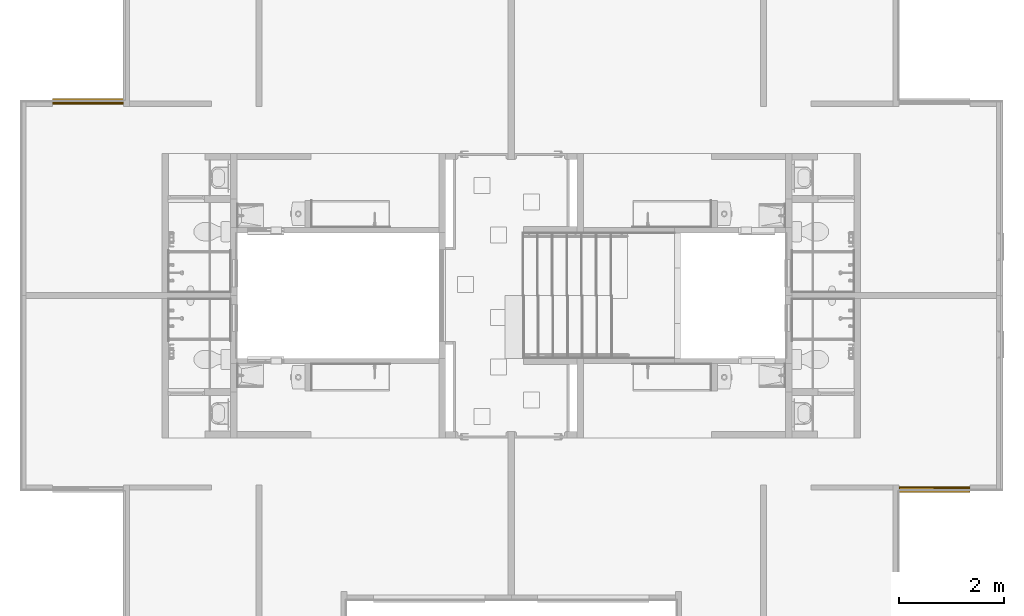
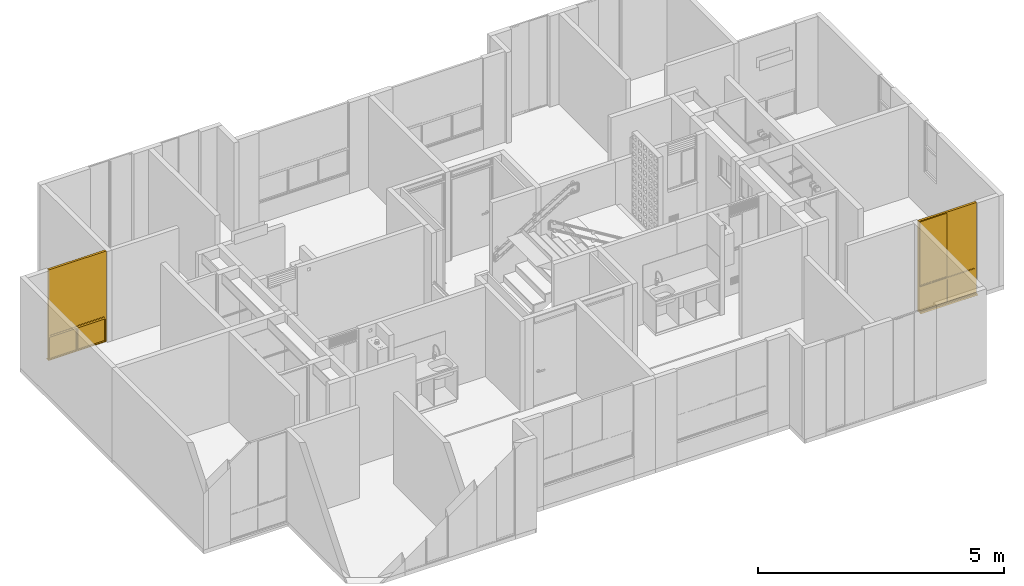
# One storey, part 35 of 48: 2 windows.
"""IFC4 building model written with IfcOpenShell, lengths in metres."""

from ifc_helpers import new_model, entity, si_unit, converted_unit, derived_unit, direction, frame, origin, place, context, subcontext, project, spatial, polygons, source, transform, mapped, material, constituent, constituent_set, type_object, type_shapes, element, save


model = new_model("IFC4")

# Units and contexts
model_context = context("Model", 3, precision=1e-05, world=origin(), true_north=direction((6.123031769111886e-17, 1.0)))
body_context = subcontext(model_context, "Body", "Model", "MODEL_VIEW")
ifc_project = project(units=[si_unit("LENGTHUNIT", "METRE"), si_unit("AREAUNIT", "SQUARE_METRE"), si_unit("VOLUMEUNIT", "CUBIC_METRE"), converted_unit("PLANEANGLEUNIT", "DEGREE", entity("IfcRatioMeasure", 0.017453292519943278), si_unit("PLANEANGLEUNIT", "RADIAN"), dimensions=[0, 0, 0, 0, 0, 0, 0]), si_unit("MASSUNIT", "GRAM", prefix="KILO"), derived_unit("MASSDENSITYUNIT", [(si_unit("MASSUNIT", "GRAM", prefix="KILO"), 1), (si_unit("LENGTHUNIT", "METRE"), -3)]), derived_unit("IONCONCENTRATIONUNIT", [(si_unit("MASSUNIT", "GRAM", prefix="KILO"), 1), (si_unit("LENGTHUNIT", "METRE"), -3)]), derived_unit("MOMENTOFINERTIAUNIT", [(si_unit("LENGTHUNIT", "METRE"), 4)]), si_unit("TIMEUNIT", "SECOND"), si_unit("FREQUENCYUNIT", "HERTZ"), si_unit("THERMODYNAMICTEMPERATUREUNIT", "DEGREE_CELSIUS"), derived_unit("THERMALTRANSMITTANCEUNIT", [(si_unit("MASSUNIT", "GRAM", prefix="KILO"), 1), (si_unit("THERMODYNAMICTEMPERATUREUNIT", "KELVIN"), -1), (si_unit("TIMEUNIT", "SECOND"), -3)]), derived_unit("THERMALCONDUCTANCEUNIT", [(si_unit("MASSUNIT", "GRAM", prefix="KILO"), 1), (si_unit("THERMODYNAMICTEMPERATUREUNIT", "KELVIN"), -1), (si_unit("TIMEUNIT", "SECOND"), -3), (si_unit("LENGTHUNIT", "METRE"), 1)]), derived_unit("VOLUMETRICFLOWRATEUNIT", [(si_unit("LENGTHUNIT", "METRE"), 3), (si_unit("TIMEUNIT", "SECOND"), -1)]), derived_unit("MASSFLOWRATEUNIT", [(si_unit("MASSUNIT", "GRAM", prefix="KILO"), 1), (si_unit("TIMEUNIT", "SECOND"), -1)]), derived_unit("ROTATIONALFREQUENCYUNIT", [(si_unit("TIMEUNIT", "SECOND"), -1)]), si_unit("ELECTRICCURRENTUNIT", "AMPERE"), si_unit("ELECTRICVOLTAGEUNIT", "VOLT"), si_unit("POWERUNIT", "WATT"), si_unit("FORCEUNIT", "NEWTON", prefix="KILO"), si_unit("ILLUMINANCEUNIT", "LUX"), si_unit("LUMINOUSFLUXUNIT", "LUMEN"), si_unit("LUMINOUSINTENSITYUNIT", "CANDELA"), derived_unit("USERDEFINED", [(si_unit("MASSUNIT", "GRAM", prefix="KILO"), -1), (si_unit("LENGTHUNIT", "METRE"), -2), (si_unit("TIMEUNIT", "SECOND"), 3), (si_unit("LUMINOUSFLUXUNIT", "LUMEN"), 1)]), derived_unit("USERDEFINED", [(si_unit("MASSUNIT", "GRAM", prefix="KILO"), 1), (si_unit("TIMEUNIT", "SECOND"), -3), (si_unit("LENGTHUNIT", "METRE"), 3), (si_unit("ELECTRICCURRENTUNIT", "AMPERE"), -2)]), derived_unit("SOUNDPOWERUNIT", [(si_unit("MASSUNIT", "GRAM", prefix="KILO"), 1), (si_unit("TIMEUNIT", "SECOND"), -3), (si_unit("LENGTHUNIT", "METRE"), 2)]), derived_unit("SOUNDPRESSUREUNIT", [(si_unit("MASSUNIT", "GRAM", prefix="KILO"), 1), (si_unit("LENGTHUNIT", "METRE"), -1), (si_unit("TIMEUNIT", "SECOND"), -2)]), derived_unit("LINEARVELOCITYUNIT", [(si_unit("LENGTHUNIT", "METRE"), 1), (si_unit("TIMEUNIT", "SECOND"), -1)]), si_unit("PRESSUREUNIT", "PASCAL"), derived_unit("USERDEFINED", [(si_unit("MASSUNIT", "GRAM", prefix="KILO"), 1), (si_unit("LENGTHUNIT", "METRE"), -2), (si_unit("TIMEUNIT", "SECOND"), -2)]), derived_unit("LINEARFORCEUNIT", [(si_unit("MASSUNIT", "GRAM", prefix="KILO"), 1), (si_unit("TIMEUNIT", "SECOND"), -2)]), derived_unit("PLANARFORCEUNIT", [(si_unit("MASSUNIT", "GRAM", prefix="KILO"), 1), (si_unit("LENGTHUNIT", "METRE"), -1), (si_unit("TIMEUNIT", "SECOND"), -2)]), derived_unit("SPECIFICHEATCAPACITYUNIT", [(si_unit("THERMODYNAMICTEMPERATUREUNIT", "KELVIN"), -1), (si_unit("LENGTHUNIT", "METRE"), 2), (si_unit("TIMEUNIT", "SECOND"), -2)]), derived_unit("HEATINGVALUEUNIT", [(si_unit("LENGTHUNIT", "METRE"), 2), (si_unit("TIMEUNIT", "SECOND"), -2)]), derived_unit("VAPORPERMEABILITYUNIT", [(si_unit("LENGTHUNIT", "METRE"), -1), (si_unit("TIMEUNIT", "SECOND"), 1)]), derived_unit("DYNAMICVISCOSITYUNIT", [(si_unit("MASSUNIT", "GRAM", prefix="KILO"), 1), (si_unit("TIMEUNIT", "SECOND"), -1), (si_unit("LENGTHUNIT", "METRE"), -1)]), derived_unit("THERMALEXPANSIONCOEFFICIENTUNIT", [(si_unit("THERMODYNAMICTEMPERATUREUNIT", "KELVIN"), -1)]), derived_unit("MODULUSOFELASTICITYUNIT", [(si_unit("MASSUNIT", "GRAM", prefix="KILO"), 1), (si_unit("LENGTHUNIT", "METRE"), -1), (si_unit("TIMEUNIT", "SECOND"), -2)]), derived_unit("ISOTHERMALMOISTURECAPACITYUNIT", [(si_unit("LENGTHUNIT", "METRE"), 3), (si_unit("MASSUNIT", "GRAM", prefix="KILO"), -1)]), derived_unit("MOISTUREDIFFUSIVITYUNIT", [(si_unit("TIMEUNIT", "SECOND"), -1), (si_unit("LENGTHUNIT", "METRE"), 2)])], contexts=[model_context])

# Site, building, storey
site_placement = place(None, origin())
site = spatial("IfcSite", under=ifc_project, at=site_placement, Name="Default", CompositionType="ELEMENT")
building_placement = place(site_placement, origin())
building = spatial("IfcBuilding", under=site, at=building_placement, CompositionType="ELEMENT")
storey_placement = place(building_placement, frame((0.0, 0.0, 9.40000000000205)))
storey = spatial("IfcBuildingStorey", under=building, at=storey_placement, Name="Nivel 5", CompositionType="ELEMENT", Elevation=9.40000000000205)

# Windows
ifc_material_1 = material(Name="Vidrio", Category="Materials")
ifc_constituent_1 = constituent(ifc_material_1, Name="Vidrio", Category="Materials")
ifc_material_2 = material(Name="Aluminio", Category="Materials")
ifc_constituent_2 = constituent(ifc_material_2, Name="Aluminio", Category="Materials")
ifc_material_3 = material(Name="<Unnamed>")
ifc_constituent_3 = constituent(ifc_material_3, Name="<Unnamed>")
ifc_constituent_set_1 = constituent_set(constituents=[ifc_constituent_1, ifc_constituent_2, ifc_constituent_3])
ifc_constituent_4 = constituent(ifc_material_1, Name="Vidrio", Category="Materials")
ifc_constituent_5 = constituent(ifc_material_2, Name="Aluminio", Category="Materials")
ifc_constituent_6 = constituent(ifc_material_3, Name="<Unnamed>")
ifc_constituent_set_2 = constituent_set(constituents=[ifc_constituent_4, ifc_constituent_5, ifc_constituent_6])
window_type = type_object("IfcWindowType", Name="B2020 - Ventana corrediza - Aluminio + Vidrio:B2020 - 1.35m x 2.25m - Ventana corrediza 2C - Aluminio + Vidrio", PartitioningType="NOTDEFINED", PredefinedType="WINDOW", material=ifc_constituent_set_2)
shared_shape = source(origin(), body_context, "Body", "Tessellation", [
    polygons([(0.020000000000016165, 0.044249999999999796, 2.2300000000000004), (0.020000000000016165, 0.044249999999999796, 0.6174999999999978), (0.6750000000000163, 0.04424999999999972, 0.6174999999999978), (0.6750000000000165, 0.04424999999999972, 2.2300000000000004), (0.6750000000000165, 0.04824999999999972, 2.2300000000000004), (0.020000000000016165, 0.04824999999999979, 2.2300000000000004), (0.6750000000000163, 0.04824999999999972, 0.6174999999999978), (0.020000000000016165, 0.04824999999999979, 0.6174999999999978)], [[[1, 2, 3, 4]], [[4, 5, 6, 1]], [[3, 7, 5, 4]], [[1, 6, 8, 2]], [[6, 5, 7, 8]], [[2, 8, 7, 3]]], closed=True),
    polygons([(1.3300000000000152, 0.04424999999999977, 2.2300000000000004), (0.6700000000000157, 0.044249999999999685, 2.2300000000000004), (0.6700000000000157, 0.044249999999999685, 0.6174999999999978), (1.3300000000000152, 0.04424999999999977, 0.6174999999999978), (1.3300000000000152, 0.048249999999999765, 0.6174999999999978), (1.3300000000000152, 0.048249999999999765, 2.2300000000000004), (0.6700000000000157, 0.04824999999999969, 2.2300000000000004), (0.6700000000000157, 0.04824999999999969, 0.6174999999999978)], [[[1, 2, 3, 4]], [[4, 5, 6, 1]], [[2, 7, 8, 3]], [[1, 6, 7, 2]], [[6, 5, 8, 7]], [[3, 8, 5, 4]]], closed=True),
    polygons([(0.6700000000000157, 0.048249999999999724, 0.6174999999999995), (0.6700000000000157, 0.048249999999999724, 2.230000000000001), (0.6700000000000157, 0.044249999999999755, 2.230000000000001), (0.6700000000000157, 0.044249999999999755, 0.6174999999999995), (1.3300000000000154, 0.04424999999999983, 2.230000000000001), (1.3300000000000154, 0.04424999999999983, 0.6174999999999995), (0.685000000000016, 0.044249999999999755, 2.2150000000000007), (0.685000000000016, 0.044249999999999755, 0.6324999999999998), (1.315000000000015, 0.04424999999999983, 0.6324999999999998), (1.315000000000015, 0.04424999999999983, 2.2150000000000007), (1.3300000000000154, 0.0482499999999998, 2.230000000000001), (1.3300000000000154, 0.0482499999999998, 0.6174999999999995), (0.685000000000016, 0.048249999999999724, 0.6324999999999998), (0.685000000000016, 0.048249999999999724, 2.2150000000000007), (1.315000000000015, 0.04824999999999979, 2.2150000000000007), (1.315000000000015, 0.04824999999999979, 0.6324999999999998), (0.685000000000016, 0.05299999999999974, 0.6324999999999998), (0.685000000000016, 0.05299999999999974, 2.2150000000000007), (1.315000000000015, 0.05299999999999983, 2.2150000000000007), (1.315000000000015, 0.05299999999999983, 0.6324999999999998), (0.6650000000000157, 0.05299999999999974, 0.6124999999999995), (0.6650000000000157, 0.05299999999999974, 2.2350000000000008), (1.3350000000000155, 0.05299999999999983, 2.2350000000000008), (1.3350000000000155, 0.05299999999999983, 0.6124999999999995), (0.6650000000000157, 0.03949999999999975, 0.6124999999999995), (0.6650000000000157, 0.03949999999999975, 2.2350000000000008), (1.3350000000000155, 0.03949999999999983, 2.2350000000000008), (1.3350000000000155, 0.03949999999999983, 0.6124999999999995), (0.685000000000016, 0.03949999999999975, 0.6324999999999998), (0.685000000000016, 0.03949999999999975, 2.2150000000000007), (1.315000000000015, 0.03949999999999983, 2.2150000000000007), (1.315000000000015, 0.03949999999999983, 0.6324999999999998)], [[[1, 2, 3, 4]], [[4, 3, 5, 6], [7, 8, 9, 10]], [[2, 11, 5, 3]], [[2, 1, 12, 11], [13, 14, 15, 16]], [[17, 18, 14, 13]], [[18, 19, 15, 14]], [[21, 22, 23, 24], [18, 17, 20, 19]], [[25, 26, 22, 21]], [[26, 27, 23, 22]], [[26, 25, 28, 27], [29, 30, 31, 32]], [[8, 7, 30, 29]], [[7, 10, 31, 30]], [[11, 12, 6, 5]], [[19, 20, 16, 15]], [[27, 28, 24, 23]], [[10, 9, 32, 31]], [[12, 1, 4, 6]], [[20, 17, 13, 16]], [[28, 25, 21, 24]], [[9, 8, 29, 32]]], closed=True),
    polygons([(0.6800000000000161, 0.06674999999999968, 2.229999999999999), (0.02000000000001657, 0.06674999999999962, 2.229999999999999), (0.02000000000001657, 0.06674999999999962, 0.6174999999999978), (0.6800000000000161, 0.06674999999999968, 0.6174999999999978), (0.6800000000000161, 0.07074999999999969, 0.6174999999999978), (0.6800000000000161, 0.07074999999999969, 2.229999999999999), (0.02000000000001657, 0.0707499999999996, 2.229999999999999), (0.02000000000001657, 0.0707499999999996, 0.6174999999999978)], [[[1, 2, 3, 4]], [[4, 5, 6, 1]], [[2, 7, 8, 3]], [[1, 6, 7, 2]], [[6, 5, 8, 7]], [[3, 8, 5, 4]]], closed=True),
    polygons([(0.020000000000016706, 0.07074999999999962, 0.6175), (0.020000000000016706, 0.07074999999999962, 2.2299999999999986), (0.020000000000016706, 0.06674999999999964, 2.2299999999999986), (0.020000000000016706, 0.06674999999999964, 0.6175), (0.6800000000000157, 0.06674999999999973, 2.2299999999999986), (0.6800000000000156, 0.06674999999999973, 0.6175000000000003), (0.035000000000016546, 0.06674999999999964, 2.214999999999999), (0.035000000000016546, 0.06674999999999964, 0.6324999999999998), (0.6650000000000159, 0.06674999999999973, 0.6324999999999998), (0.6650000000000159, 0.06674999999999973, 2.214999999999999), (0.6800000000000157, 0.0707499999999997, 2.2299999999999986), (0.6800000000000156, 0.0707499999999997, 0.6175), (0.035000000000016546, 0.07074999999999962, 0.6324999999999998), (0.035000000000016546, 0.07074999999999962, 2.214999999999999), (0.6650000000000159, 0.0707499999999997, 2.214999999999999), (0.6650000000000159, 0.0707499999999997, 0.6324999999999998), (0.035000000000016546, 0.07549999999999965, 0.6324999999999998), (0.035000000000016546, 0.07549999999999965, 2.214999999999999), (0.6650000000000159, 0.07549999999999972, 2.214999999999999), (0.6650000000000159, 0.07549999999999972, 0.6324999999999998), (0.015000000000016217, 0.07549999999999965, 0.6124999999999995), (0.015000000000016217, 0.07549999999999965, 2.2349999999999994), (0.6850000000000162, 0.07549999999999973, 2.2349999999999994), (0.685000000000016, 0.07549999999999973, 0.6124999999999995), (0.015000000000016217, 0.06199999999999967, 0.6124999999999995), (0.015000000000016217, 0.06199999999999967, 2.2349999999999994), (0.6850000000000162, 0.06199999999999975, 2.2349999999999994), (0.685000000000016, 0.06199999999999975, 0.6124999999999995), (0.035000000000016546, 0.06199999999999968, 0.6324999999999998), (0.035000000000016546, 0.06199999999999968, 2.214999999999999), (0.6650000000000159, 0.06199999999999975, 2.214999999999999), (0.6650000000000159, 0.06199999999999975, 0.6324999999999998)], [[[1, 2, 3, 4]], [[4, 3, 5, 6], [7, 8, 9, 10]], [[2, 11, 5, 3]], [[2, 1, 12, 11], [13, 14, 15, 16]], [[17, 18, 14, 13]], [[18, 19, 15, 14]], [[21, 22, 23, 24], [18, 17, 20, 19]], [[25, 26, 22, 21]], [[26, 27, 23, 22]], [[26, 25, 28, 27], [29, 30, 31, 32]], [[8, 7, 30, 29]], [[7, 10, 31, 30]], [[11, 12, 6, 5]], [[19, 20, 16, 15]], [[27, 28, 24, 23]], [[10, 9, 32, 31]], [[12, 1, 4, 6]], [[20, 17, 13, 16]], [[28, 25, 21, 24]], [[9, 8, 29, 32]]], closed=True),
    polygons([(0.025000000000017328, 0.037499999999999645, 2.224999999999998), (1.3250000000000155, 0.037499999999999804, 2.2249999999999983), (1.3250000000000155, 0.03249999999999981, 2.2249999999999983), (0.025000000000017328, 0.03249999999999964, 2.224999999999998), (1.325000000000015, 0.037499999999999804, 0.6200000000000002), (1.3250000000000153, 0.03249999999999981, 0.6200000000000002), (0.025000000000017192, 0.03249999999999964, 0.6200000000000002), (1.3500000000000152, 0.03249999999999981, 0.595), (1.3500000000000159, 0.03249999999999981, 2.2499999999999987), (1.6919798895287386e-14, 0.03249999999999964, 2.2499999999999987), (1.6919798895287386e-14, 0.03249999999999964, 0.595), (0.025000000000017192, 0.037499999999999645, 0.6200000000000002), (1.345000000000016, 0.037499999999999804, 2.2449999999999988), (1.3450000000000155, 0.037499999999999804, 0.5999999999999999), (0.005000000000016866, 0.037499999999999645, 0.5999999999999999), (0.005000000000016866, 0.037499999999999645, 2.2449999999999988), (0.005000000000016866, 0.054999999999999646, 2.2449999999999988), (1.345000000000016, 0.05499999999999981, 2.2449999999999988), (1.3450000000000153, 0.05499999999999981, 0.5999999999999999), (0.005000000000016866, 0.054999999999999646, 0.5999999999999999), (1.3250000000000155, 0.054999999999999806, 2.2249999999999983), (1.3250000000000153, 0.054999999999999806, 0.6200000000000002), (0.025000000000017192, 0.05499999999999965, 0.6200000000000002), (0.025000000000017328, 0.05499999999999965, 2.2249999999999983), (0.025000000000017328, 0.05999999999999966, 2.224999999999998), (1.3250000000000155, 0.05999999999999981, 2.2249999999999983), (1.325000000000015, 0.05999999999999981, 0.6200000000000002), (0.025000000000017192, 0.05999999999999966, 0.6200000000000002), (1.345000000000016, 0.05999999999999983, 2.2449999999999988), (1.3450000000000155, 0.05999999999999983, 0.5999999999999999), (0.005000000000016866, 0.05999999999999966, 0.5999999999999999), (0.005000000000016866, 0.05999999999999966, 2.2449999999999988), (0.005000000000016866, 0.07749999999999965, 2.2449999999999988), (1.345000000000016, 0.07749999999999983, 2.2449999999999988), (1.3450000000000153, 0.07749999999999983, 0.5999999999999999), (0.005000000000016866, 0.07749999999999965, 0.5999999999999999), (1.3250000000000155, 0.07749999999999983, 2.2249999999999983), (1.3250000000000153, 0.07749999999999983, 0.6200000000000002), (0.025000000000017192, 0.07749999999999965, 0.6200000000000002), (0.025000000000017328, 0.07749999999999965, 2.2249999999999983), (0.025000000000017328, 0.08249999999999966, 2.224999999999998), (1.3250000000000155, 0.08249999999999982, 2.2249999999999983), (1.325000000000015, 0.08249999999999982, 0.6200000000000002), (0.025000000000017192, 0.08249999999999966, 0.6200000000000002), (1.3500000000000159, 0.08249999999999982, 2.2499999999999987), (1.3500000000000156, 0.08249999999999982, 0.595), (1.6919798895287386e-14, 0.08249999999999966, 0.595), (1.6919798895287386e-14, 0.08249999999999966, 2.2499999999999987)], [[[1, 2, 3, 4]], [[2, 5, 6, 3]], [[8, 9, 10, 11], [3, 6, 7, 4]], [[13, 14, 15, 16], [5, 2, 1, 12]], [[17, 18, 13, 16]], [[18, 19, 14, 13]], [[19, 18, 17, 20], [21, 22, 23, 24]], [[25, 26, 21, 24]], [[26, 27, 22, 21]], [[29, 30, 31, 32], [27, 26, 25, 28]], [[33, 34, 29, 32]], [[34, 35, 30, 29]], [[35, 34, 33, 36], [37, 38, 39, 40]], [[41, 42, 37, 40]], [[42, 43, 38, 37]], [[45, 46, 47, 48], [43, 42, 41, 44]], [[10, 9, 45, 48]], [[9, 8, 46, 45]], [[12, 1, 4, 7]], [[20, 17, 16, 15]], [[28, 25, 24, 23]], [[36, 33, 32, 31]], [[44, 41, 40, 39]], [[11, 10, 48, 47]], [[5, 12, 7, 6]], [[19, 20, 15, 14]], [[27, 28, 23, 22]], [[35, 36, 31, 30]], [[43, 44, 39, 38]], [[8, 11, 47, 46]]], closed=True),
    polygons([(1.330000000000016, 0.08250000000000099, 0.5749999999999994), (1.330000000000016, 0.08250000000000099, 0.020000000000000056), (1.330000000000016, 0.0324999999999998, 0.020000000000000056), (1.330000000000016, 0.03249999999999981, 0.5749999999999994), (0.6850000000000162, 0.08250000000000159, 0.01999999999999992), (0.6850000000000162, 0.03250000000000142, 0.01999999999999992), (1.3500000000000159, 0.03250000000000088, 0.5949999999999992), (1.3500000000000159, 0.03250000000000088, 2.707167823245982e-16), (1.3500000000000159, 0.08249999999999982, 2.707167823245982e-16), (1.3500000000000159, 0.08249999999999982, 0.5949999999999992), (1.624300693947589e-14, 0.03250000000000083, 2.707167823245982e-16), (1.624300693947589e-14, 0.08249999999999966, 2.707167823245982e-16), (0.020000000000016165, 0.08250000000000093, 0.020000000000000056), (0.020000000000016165, 0.08250000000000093, 0.5749999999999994), (0.02000000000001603, 0.03249999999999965, 0.5749999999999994), (0.02000000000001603, 0.03249999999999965, 0.020000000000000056), (1.624300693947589e-14, 0.03250000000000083, 0.5949999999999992), (1.624300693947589e-14, 0.08249999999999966, 0.5949999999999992), (0.6650000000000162, 0.08250000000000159, 0.5749999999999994), (0.6650000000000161, 0.03250000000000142, 0.5749999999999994), (0.6650000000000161, 0.08250000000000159, 0.01999999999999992), (0.6650000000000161, 0.03250000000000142, 0.01999999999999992), (0.6850000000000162, 0.03250000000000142, 0.5749999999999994), (0.6850000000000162, 0.08250000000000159, 0.5749999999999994)], [[[1, 2, 3, 4]], [[2, 5, 6, 3]], [[7, 8, 9, 10]], [[8, 11, 12, 9]], [[13, 14, 15, 16]], [[11, 17, 18, 12]], [[14, 19, 20, 15]], [[10, 18, 17, 7]], [[21, 22, 20, 19]], [[7, 17, 11, 8], [22, 16, 15, 20], [23, 4, 3, 6]], [[24, 23, 6, 5]], [[9, 12, 18, 10], [5, 2, 1, 24], [19, 14, 13, 21]], [[4, 23, 24, 1]], [[16, 22, 21, 13]]], closed=True),
    polygons([(0.6650000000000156, 0.07213901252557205, 0.019999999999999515), (0.6650000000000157, 0.06813901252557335, 0.019999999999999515), (0.020000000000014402, 0.06813901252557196, 0.019999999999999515), (0.020000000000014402, 0.07213901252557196, 0.019999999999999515), (0.6650000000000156, 0.07213901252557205, 0.5849999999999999), (0.020000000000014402, 0.07213901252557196, 0.5849999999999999), (0.020000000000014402, 0.06813901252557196, 0.5849999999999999), (0.6650000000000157, 0.06813901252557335, 0.5849999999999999)], [[[1, 2, 3, 4]], [[5, 1, 4, 6]], [[6, 4, 3, 7]], [[7, 3, 2, 8]], [[8, 2, 1, 5]], [[5, 6, 7, 8]]], closed=True),
    polygons([(0.6850000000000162, 0.07213901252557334, 0.019999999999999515), (1.3300000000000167, 0.07213901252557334, 0.019999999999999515), (1.3300000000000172, 0.06813901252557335, 0.019999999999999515), (0.6850000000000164, 0.06813901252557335, 0.019999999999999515), (0.6850000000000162, 0.07213901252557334, 0.5849999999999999), (0.6850000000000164, 0.06813901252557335, 0.5849999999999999), (1.3300000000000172, 0.06813901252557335, 0.5849999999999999), (1.3300000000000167, 0.07213901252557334, 0.5849999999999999)], [[[1, 2, 3, 4]], [[5, 1, 4, 6]], [[6, 4, 3, 7]], [[7, 3, 2, 8]], [[8, 2, 1, 5]], [[5, 6, 7, 8]]], closed=True),
    polygons([(1.350000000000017, 0.11499999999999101, -4.060751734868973e-16), (1.350000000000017, 0.14098076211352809, -0.015000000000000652), (1.350000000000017, 0.14348076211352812, -0.010669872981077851), (1.350000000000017, 0.11633974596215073, 0.0049999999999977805), (1.350000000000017, 0.08249999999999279, 0.0049999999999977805), (1.350000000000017, 0.08249999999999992, -4.060751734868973e-16), (1.7461232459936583e-14, 0.11499999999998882, -4.060751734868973e-16), (1.7461232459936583e-14, 0.08249999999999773, -4.060751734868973e-16), (1.7461232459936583e-14, 0.08249999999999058, 0.0049999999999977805), (1.7461232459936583e-14, 0.11633974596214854, 0.0049999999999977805), (1.7325874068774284e-14, 0.14348076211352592, -0.010669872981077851), (1.7325874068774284e-14, 0.1409807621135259, -0.015000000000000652)], [[[1, 2, 3, 4, 5, 6]], [[7, 8, 9, 10, 11, 12]], [[6, 8, 7, 1]], [[5, 9, 8, 6]], [[4, 10, 9, 5]], [[3, 11, 10, 4]], [[2, 12, 11, 3]], [[1, 7, 12, 2]]], closed=True),
])
type_shapes(window_type, [shared_shape])
window_1_placement = place(storey_placement, frame((0.5674999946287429, -2.810000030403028, 0.0)))
element("IfcWindow", 1, at=window_1_placement, inside=storey, type_object=window_type, material=ifc_constituent_set_1, Name="B2020 - Ventana corrediza - Aluminio + Vidrio:B2020 - 1.35m x 2.25m - Ventana corrediza 2C - Aluminio + Vidrio", ObjectType="B2020 - Ventana corrediza - Aluminio + Vidrio:B2020 - 1.35m x 2.25m - Ventana corrediza 2C - Aluminio + Vidrio", OverallHeight=2.265, OverallWidth=1.3500000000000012, PartitioningType="NOTDEFINED", PredefinedType="WINDOW", context=body_context, shape_type="MappedRepresentation", body=[
    mapped(shared_shape, transform((0.0, 0.0, 0.0), scale=1.0)),
])
ifc_constituent_7 = constituent(ifc_material_1, Name="Vidrio", Category="Materials")
ifc_constituent_8 = constituent(ifc_material_2, Name="Aluminio", Category="Materials")
ifc_constituent_9 = constituent(ifc_material_3, Name="<Unnamed>")
ifc_constituent_set_3 = constituent_set(constituents=[ifc_constituent_7, ifc_constituent_8, ifc_constituent_9])
window_2_placement = place(storey_placement, frame((18.077500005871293, -10.040000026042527, 0.0), z_axis=(0.0, 0.0, 1.0), x_axis=(-1.0, 0.0, 0.0)))
element("IfcWindow", 2, at=window_2_placement, inside=storey, type_object=window_type, material=ifc_constituent_set_3, Name="B2020 - Ventana corrediza - Aluminio + Vidrio:B2020 - 1.35m x 2.25m - Ventana corrediza 2C - Aluminio + Vidrio", ObjectType="B2020 - Ventana corrediza - Aluminio + Vidrio:B2020 - 1.35m x 2.25m - Ventana corrediza 2C - Aluminio + Vidrio", OverallHeight=2.265, OverallWidth=1.3500000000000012, PartitioningType="NOTDEFINED", PredefinedType="WINDOW", context=body_context, shape_type="MappedRepresentation", body=[
    mapped(shared_shape, transform((0.0, 0.0, 0.0), scale=1.0)),
])

save(model, "model.ifc")
